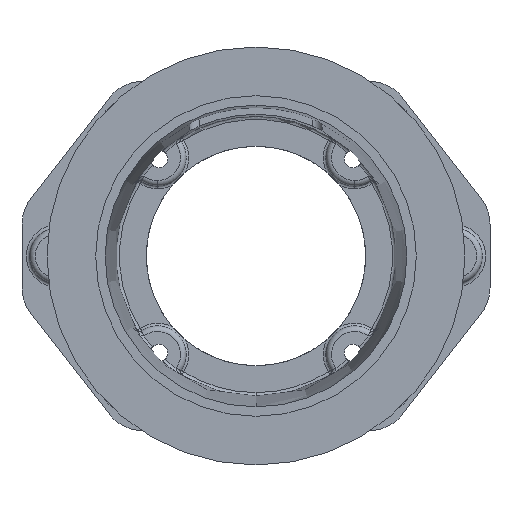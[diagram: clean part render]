
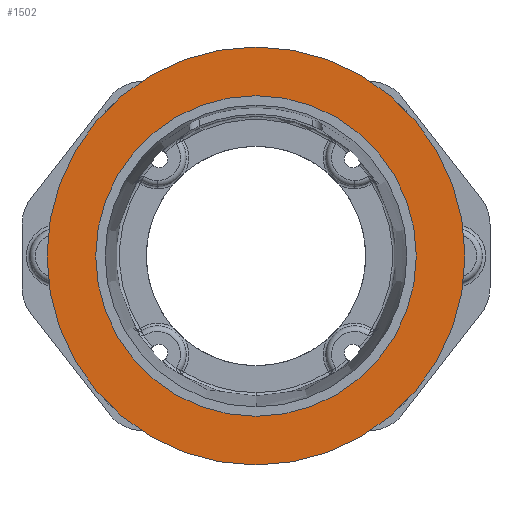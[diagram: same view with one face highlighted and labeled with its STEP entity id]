
A CAD part, front view. The second image highlights one B-rep face of the part: STEP entity #1502.
In plain terms, the highlighted planar face has unit normal (0, -1, 0).
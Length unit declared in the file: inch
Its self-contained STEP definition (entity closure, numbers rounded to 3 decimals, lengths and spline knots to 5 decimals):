
#53 = AXIS2_PLACEMENT_3D ( 'NONE', #3853, #10007, #4721 ) ;
#576 = EDGE_LOOP ( 'NONE', ( #5808, #7534 ) ) ;
#676 = CIRCLE ( 'NONE', #10606, 3.75 ) ;
#991 = CARTESIAN_POINT ( 'NONE',  ( 0., 0., -2.876 ) ) ;
#1224 = CIRCLE ( 'NONE', #6457, 2.876 ) ;
#1276 = VERTEX_POINT ( 'NONE', #991 ) ;
#1502 = ADVANCED_FACE ( 'NONE', ( #6663, #9283 ), #7564, .F. ) ;
#3166 = CARTESIAN_POINT ( 'NONE',  ( 0., 0., 0. ) ) ;
#3180 = CARTESIAN_POINT ( 'NONE',  ( -3.75, 0., 0. ) ) ;
#3188 = CARTESIAN_POINT ( 'NONE',  ( 0., 0., 2.876 ) ) ;
#3233 = DIRECTION ( 'NONE',  ( 0., -1., 0. ) ) ;
#3853 = CARTESIAN_POINT ( 'NONE',  ( 0., 0., 0. ) ) ;
#4039 = AXIS2_PLACEMENT_3D ( 'NONE', #8510, #3233, #9378 ) ;
#4054 = DIRECTION ( 'NONE',  ( 0., 0., -1. ) ) ;
#4060 = CARTESIAN_POINT ( 'NONE',  ( 0., 0., 0. ) ) ;
#4167 = VERTEX_POINT ( 'NONE', #3188 ) ;
#4384 = AXIS2_PLACEMENT_3D ( 'NONE', #3180, #4939, #11094 ) ;
#4721 = DIRECTION ( 'NONE',  ( 0., 0., -1. ) ) ;
#4927 = DIRECTION ( 'NONE',  ( 0., 0., -1. ) ) ;
#4939 = DIRECTION ( 'NONE',  ( 0., 1., 0. ) ) ;
#4942 = CIRCLE ( 'NONE', #4039, 2.876 ) ;
#5808 = ORIENTED_EDGE ( 'NONE', *, *, #5824, .F. ) ;
#5824 = EDGE_CURVE ( 'NONE', #1276, #4167, #4942, .T. ) ;
#6393 = ORIENTED_EDGE ( 'NONE', *, *, #9655, .T. ) ;
#6457 = AXIS2_PLACEMENT_3D ( 'NONE', #3166, #9313, #4054 ) ;
#6663 = FACE_BOUND ( 'NONE', #576, .T. ) ;
#6738 = EDGE_CURVE ( 'NONE', #4167, #1276, #1224, .T. ) ;
#7534 = ORIENTED_EDGE ( 'NONE', *, *, #6738, .F. ) ;
#7564 = PLANE ( 'NONE',  #4384 ) ;
#7756 = ORIENTED_EDGE ( 'NONE', *, *, #7904, .T. ) ;
#7904 = EDGE_CURVE ( 'NONE', #9717, #8903, #8372, .T. ) ;
#7907 = EDGE_LOOP ( 'NONE', ( #6393, #7756 ) ) ;
#8372 = CIRCLE ( 'NONE', #53, 3.75 ) ;
#8510 = CARTESIAN_POINT ( 'NONE',  ( 0., 0., 0. ) ) ;
#8903 = VERTEX_POINT ( 'NONE', #10520 ) ;
#9283 = FACE_OUTER_BOUND ( 'NONE', #7907, .T. ) ;
#9313 = DIRECTION ( 'NONE',  ( 0., -1., 0. ) ) ;
#9378 = DIRECTION ( 'NONE',  ( 0., 0., -1. ) ) ;
#9655 = EDGE_CURVE ( 'NONE', #8903, #9717, #676, .T. ) ;
#9717 = VERTEX_POINT ( 'NONE', #11079 ) ;
#10007 = DIRECTION ( 'NONE',  ( 0., -1., 0. ) ) ;
#10209 = DIRECTION ( 'NONE',  ( 0., -1., 0. ) ) ;
#10520 = CARTESIAN_POINT ( 'NONE',  ( 0., 0., -3.75 ) ) ;
#10606 = AXIS2_PLACEMENT_3D ( 'NONE', #4060, #10209, #4927 ) ;
#11079 = CARTESIAN_POINT ( 'NONE',  ( 0., 0., 3.75 ) ) ;
#11094 = DIRECTION ( 'NONE',  ( 0., 0., 1. ) ) ;
